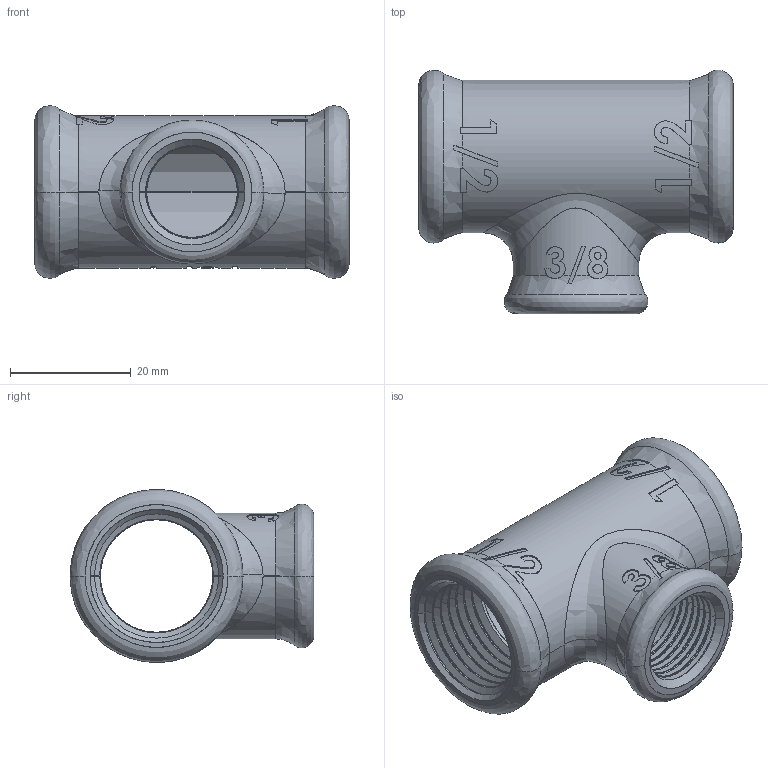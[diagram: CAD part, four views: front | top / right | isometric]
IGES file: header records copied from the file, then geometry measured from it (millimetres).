
Start section: SolidWorks IGES file using analytic representation for surfaces
Global section: file name: C:\Users\Joel Rosa\Desktop\Tubulação\12-45-XXX\12-45-026.IGS; native system: SolidWorks 2011; preprocessor: SolidWorks 2011; author: Joel Rosa; date: 121212.233013; units: millimetre
Bounding box: 52 x 40.3 x 28.6 mm (x, y, z)
Surface area: 11074 mm2 (no closed solid volume)
Topology: 0 solids, 0 shells, 399 faces, 4425 edges, 4425 vertices
Faces by surface type: bspline 281, revolution 118
